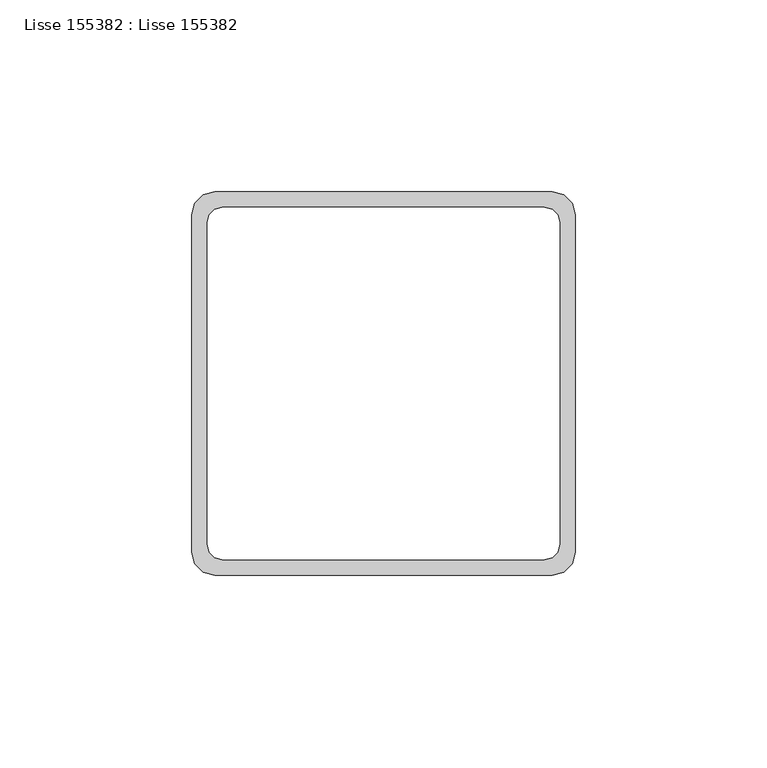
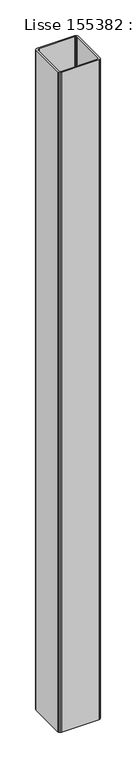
"""IFC4 building model written with IfcOpenShell, lengths in millimetres: beam geometry, Lisse 155382 : Lisse 155382."""

from ifc_helpers import new_model, si_unit, frame, origin, place, context, project, spatial, polyline, outline, extrude, source, transform, mapped, element, save


def lisse_155382_lisse_155382_e24d2321(model_context):
    return source(origin(), model_context, "Body", "SweptSolid", [
        extrude(outline(polyline([(-180.0000001, -29706.0), (-179.1961526, -29703.0), (-177.0000001, -29700.8038476), (-174.0000001, -29700.0), (-86.0000001, -29700.0), (-83.0000001, -29700.8038476), (-80.8038477, -29703.0), (-80.0000001, -29706.0), (-80.0000001, -29794.0), (-80.8038477, -29797.0), (-83.0000001, -29799.1961524), (-86.0000001, -29800.0), (-174.0000001, -29800.0), (-177.0000001, -29799.1961524), (-179.1961526, -29797.0), (-180.0000001, -29794.0), (-180.0000001, -29706.0)]), holes=[polyline([(-176.0000001, -29792.0), (-175.4641017, -29794.0), (-174.0000001, -29795.4641016), (-172.0000001, -29796.0), (-88.0000001, -29796.0), (-86.0000001, -29795.4641016), (-84.5358985, -29794.0), (-84.0000001, -29792.0), (-84.0000001, -29708.0), (-84.5358985, -29706.0), (-86.0000001, -29704.5358984), (-88.0000001, -29704.0), (-172.0000001, -29704.0), (-174.0000001, -29704.5358984), (-175.4641017, -29706.0), (-176.0000001, -29708.0), (-176.0000001, -29792.0)])]), frame((0.0, 0.0, 1100.0), z_axis=(0.0, 0.0, 1.0), x_axis=(1.0, 0.0, 0.0)), (0.0, 0.0, 1.0), 1650.8038476),
    ])


if __name__ == "__main__":
    model = new_model("IFC4")
    model_context = context("Model", 3, world=origin())
    ifc_project = project(units=[si_unit("LENGTHUNIT", "METRE", prefix="MILLI")], contexts=[model_context])
    site = spatial("IfcSite", under=ifc_project)
    building = spatial("IfcBuilding", under=site)
    placement = place(None, origin())
    lisse_155382_lisse_155382_shape = lisse_155382_lisse_155382_e24d2321(model_context)
    element("IfcBeam", 1, ObjectType="Lisse 155382 : Lisse 155382", at=placement, inside=building, context=model_context, shape_type="MappedRepresentation", body=[
        mapped(lisse_155382_lisse_155382_shape, transform((0.0, 0.0, 0.0), x_axis=(1.0, 0.0, 0.0), y_axis=(0.0, 1.0, 0.0), z_axis=(0.0, 0.0, 1.0))),
    ])
    save(model, "model.ifc")
